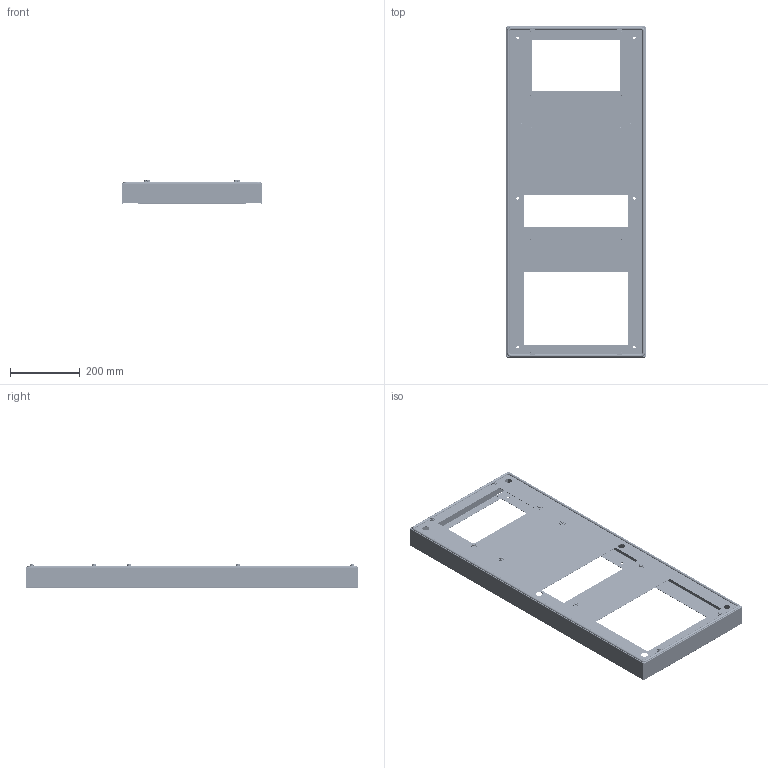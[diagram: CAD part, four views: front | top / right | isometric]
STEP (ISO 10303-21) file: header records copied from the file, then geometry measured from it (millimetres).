
FILE_DESCRIPTION (( 'STEP AP203' ), '1' );
FILE_NAME ('R5FUHAD_Assem.STEP', '2022-11-21T13:44:35', ( 'admin' ), ( '' ), 'SwSTEP 2.0', 'SolidWorks 2022', '' );
FILE_SCHEMA (( 'CONFIG_CONTROL_DESIGN' ));
Length unit declared in the file: millimetre
Products named in the file (9): RB.2400.00.02.0; 6 DIN 9021 Zinc; RB.2400.00.01.0; PF 4x8 R5FUHAD; M6 MGS-MPO-0635_thread; R5FUHAD_Assem; 6 DIN 6798 A Zinc; RB.2400.00.00.0; M6x30 DIN 933 cl.4,8 Zinc_thread
Assembly tree (44 placements, depth 3):
  R5FUHAD_Assem
    RB.2400.00.00.0
      RB.2400.00.01.0
      PF 4x8 R5FUHAD
      RB.2400.00.02.0
      M6 MGS-MPO-0635_thread  x10
    6 DIN 9021 Zinc  x10
    M6x30 DIN 933 cl.4,8 Zinc_thread  x10
    6 DIN 6798 A Zinc  x10
Bounding box: 400 x 950 x 68.9 mm (x, y, z)
Volume: 627616.4 mm3; surface area: 1174980.1 mm2
Topology: 43 solids, 43 shells, 2638 faces, 7158 edges, 4286 vertices
Faces by surface type: cylinder 1213, plane 825, bspline 326, sphere 120, cone 110, torus 44
Entity records: 26975 total; most frequent: CARTESIAN_POINT 12865, ORIENTED_EDGE 2688, DIRECTION 2321, EDGE_CURVE 1344, LINE 855, VECTOR 855, VERTEX_POINT 830, AXIS2_PLACEMENT_3D 733
